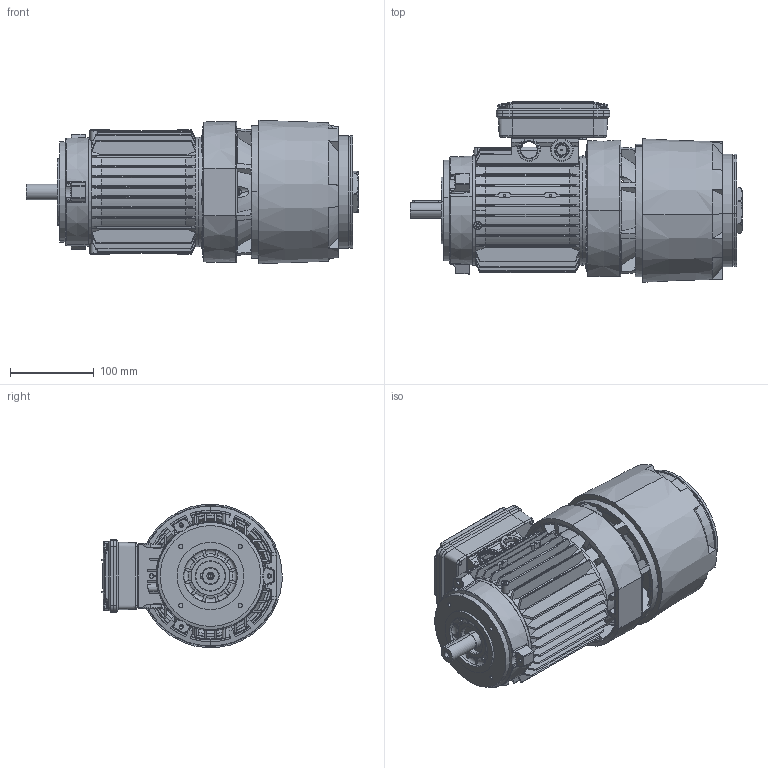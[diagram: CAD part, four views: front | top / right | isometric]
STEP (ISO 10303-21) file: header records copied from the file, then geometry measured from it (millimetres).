
FILE_DESCRIPTION (( 'STEP AP214' ), '1' );
FILE_NAME ('M08DC0010.STEP', '2020-06-25T05:16:47', ( '' ), ( '' ), 'SwSTEP 2.0', 'SolidWorks 2018', '' );
FILE_SCHEMA (( 'AUTOMOTIVE_DESIGN' ));
Length unit declared in the file: millimetre
Products named in the file (15): M08DC0010; Tappo a testa Esagonale M40x1,5; Vite BAH 80; Chiavetta 80; Albero BA 80; Cuffia BAH 80 - DCG20017; Convogliatore con pista d''attrito P2 BAH 80; Scudo Lato Freno BA80 P1; Scudo a flangia B14 BA-BM 80 - DCAC0194; Scatola per Morsettiera Doppia 63-71-80 - Completa; Guarnizione Scatola Singola 63-71-80; Vite per coperchio morsettiera; Coperchio per Scatola per Morsettiera Doppia 63-71-80; Scatola per Morsettiera Doppia 63-71-80; Carcassa 80 B5
Assembly tree (17 placements, depth 3):
  M08DC0010
    Carcassa 80 B5
    Scatola per Morsettiera Doppia 63-71-80 - Completa
      Scatola per Morsettiera Doppia 63-71-80
      Coperchio per Scatola per Morsettiera Doppia 63-71-80
      Vite per coperchio morsettiera  x4
      Guarnizione Scatola Singola 63-71-80
    Scudo a flangia B14 BA-BM 80 - DCAC0194
    Scudo Lato Freno BA80 P1
    Convogliatore con pista d''attrito P2 BAH 80
    Cuffia BAH 80 - DCG20017
    Albero BA 80
    Chiavetta 80
    Vite BAH 80
    Tappo a testa Esagonale M40x1,5
Bounding box: 395.5 x 214.9 x 170.8 mm (x, y, z)
Volume: 1611513.9 mm3; surface area: 761078 mm2
Topology: 16 solids, 16 shells, 2853 faces, 7915 edges, 5078 vertices
Faces by surface type: plane 984, cylinder 878, torus 364, cone 352, bspline 267, sphere 8
Entity records: 106306 total; most frequent: CARTESIAN_POINT 39475, ORIENTED_EDGE 14928, DIRECTION 12435, EDGE_CURVE 7464, AXIS2_PLACEMENT_3D 4842, VERTEX_POINT 4824, EDGE_LOOP 2844, LINE 2751
